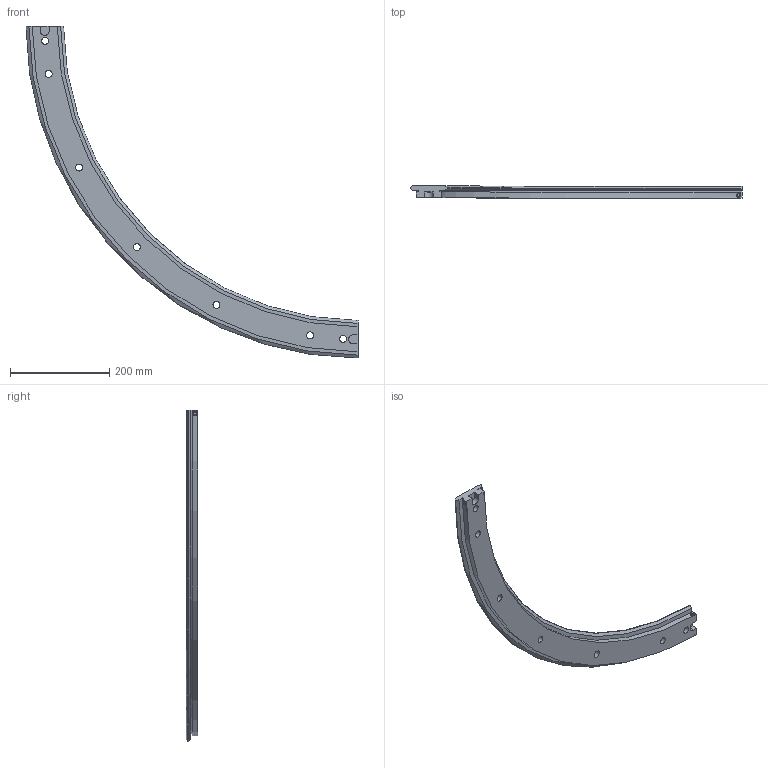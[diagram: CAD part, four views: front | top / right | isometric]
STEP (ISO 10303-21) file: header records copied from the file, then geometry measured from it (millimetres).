
FILE_DESCRIPTION( ( 'STEP AP203' ), '1' );
FILE_NAME( 'p:/temp/worker_31/temp/exporttempdir_5100_892_tiR6Y/format_0/TR76 1267 R90.stp', '2021-09-17T07:41:55', ( 'License CC BY-ND 4.0' ), ( 'CADENAS' ), ' ', 'PARTsolutions', ' ' );
FILE_SCHEMA( ( 'CONFIG_CONTROL_DESIGN' ) );
Length unit declared in the file: millimetre
Products named in the file (1): _TR76 1267 R90
Bounding box: 668.8 x 24 x 668.8 mm (x, y, z)
Volume: 1305483.2 mm3; surface area: 211571.9 mm2
Topology: 1 solids, 1 shells, 83 faces, 200 edges, 134 vertices
Faces by surface type: plane 53, cylinder 24, cone 4, torus 2
Full cylindrical faces by diameter (mm): 8 x4, 14 x7, 20 x7
Entity records: 2674 total; most frequent: CARTESIAN_POINT 716, DIRECTION 384, ORIENTED_EDGE 360, EDGE_CURVE 180, AXIS2_PLACEMENT_3D 136, VERTEX_POINT 132, EDGE_LOOP 130, LINE 112
